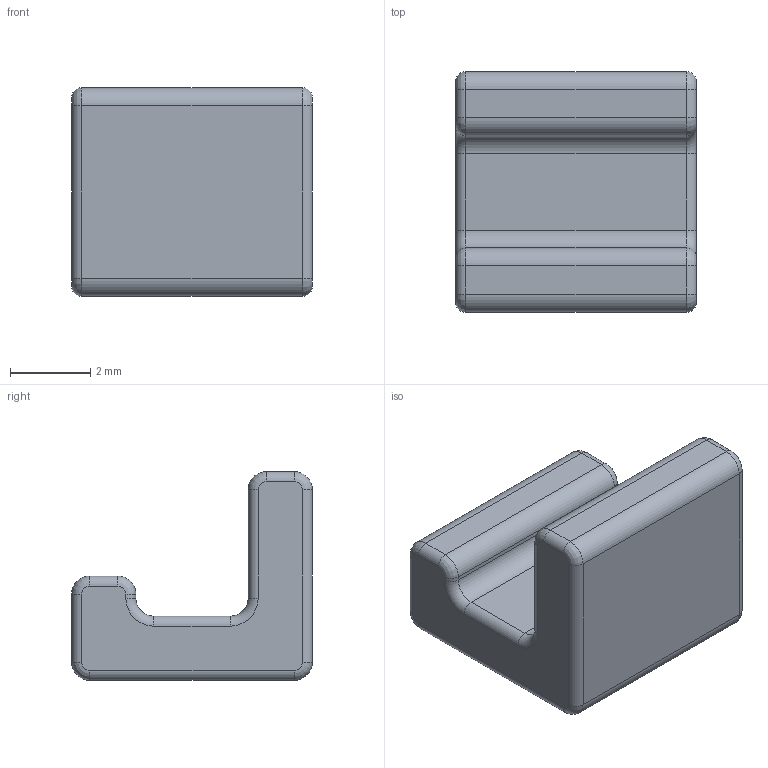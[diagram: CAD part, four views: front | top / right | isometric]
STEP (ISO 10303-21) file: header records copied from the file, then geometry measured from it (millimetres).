
FILE_DESCRIPTION(('Open CASCADE Model'),'2;1');
FILE_NAME('Open CASCADE Shape Model','2026-10-05T10:55:32',('Author'),( 'Open CASCADE'),'Open CASCADE STEP processor 7.9','Open CASCADE 7.9' ,'Unknown');
FILE_SCHEMA(('AUTOMOTIVE_DESIGN { 1 0 10303 214 1 1 1 1 }'));
Length unit declared in the file: millimetre
Products named in the file (1): Open CASCADE STEP translator 7.9 1
Bounding box: 6 x 6 x 5.2 mm (x, y, z)
Volume: 100.1 mm3; surface area: 165.7 mm2
Topology: 1 solids, 1 shells, 50 faces, 112 edges, 64 vertices
Faces by surface type: cylinder 24, revolution 12, plane 10, torus 4
Entity records: 2894 total; most frequent: CARTESIAN_POINT 647, DIRECTION 418, ORIENTED_EDGE 224, PCURVE 224, DEFINITIONAL_REPRESENTATION 224, LINE 192, VECTOR 192, EDGE_CURVE 112
